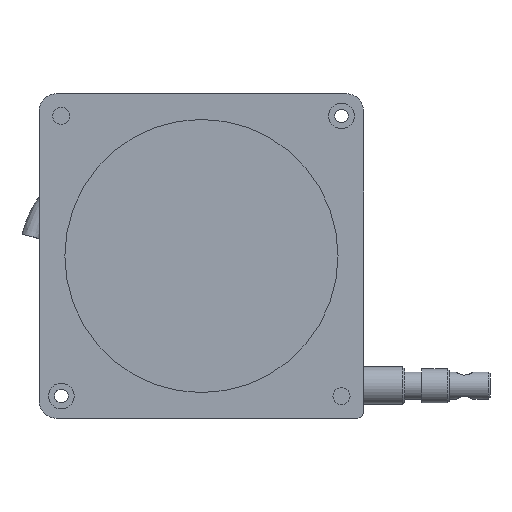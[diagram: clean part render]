
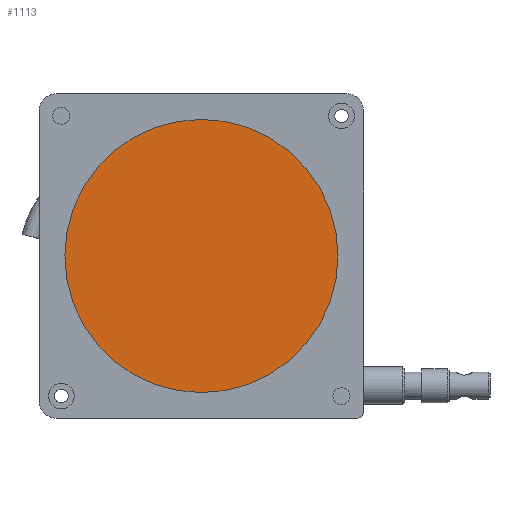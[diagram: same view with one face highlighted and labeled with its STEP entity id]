
A CAD part, front view. The second image highlights one B-rep face of the part: STEP entity #1113.
In plain terms, the highlighted planar face has unit normal (0, -1, 0).
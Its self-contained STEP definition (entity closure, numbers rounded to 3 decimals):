
#739=FACE_OUTER_BOUND('',#1860,.T.);
#1113=ADVANCED_FACE('',(#739),#1517,.F.);
#1517=PLANE('',#7806);
#1860=EDGE_LOOP('',(#3133,#3134));
#2396=CIRCLE('',#7804,40.);
#2397=CIRCLE('',#7805,40.);
#3133=ORIENTED_EDGE('',*,*,#6057,.T.);
#3134=ORIENTED_EDGE('',*,*,#6058,.T.);
#5259=VERTEX_POINT('',#11326);
#5260=VERTEX_POINT('',#11327);
#6057=EDGE_CURVE('',#5259,#5260,#2396,.T.);
#6058=EDGE_CURVE('',#5260,#5259,#2397,.T.);
#7804=AXIS2_PLACEMENT_3D('',#11325,#8957,#8958);
#7805=AXIS2_PLACEMENT_3D('',#11328,#8959,#8960);
#7806=AXIS2_PLACEMENT_3D('',#11329,#8961,#8962);
#8957=DIRECTION('',(0.,-1.,0.));
#8958=DIRECTION('',(1.,0.,0.));
#8959=DIRECTION('',(0.,-1.,0.));
#8960=DIRECTION('',(-1.,0.,0.));
#8961=DIRECTION('',(0.,1.,0.));
#8962=DIRECTION('',(-1.,0.,0.));
#11325=CARTESIAN_POINT('',(-170.54,101.137,62.111));
#11326=CARTESIAN_POINT('',(-130.54,101.137,62.111));
#11327=CARTESIAN_POINT('',(-210.54,101.137,62.111));
#11328=CARTESIAN_POINT('',(-170.54,101.137,62.111));
#11329=CARTESIAN_POINT('',(-170.54,101.137,62.111));
